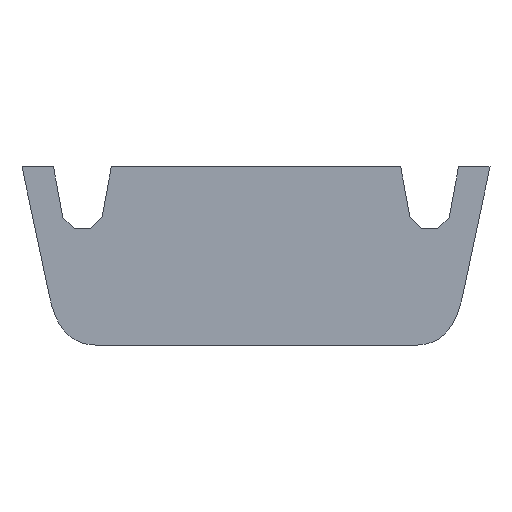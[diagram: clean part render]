
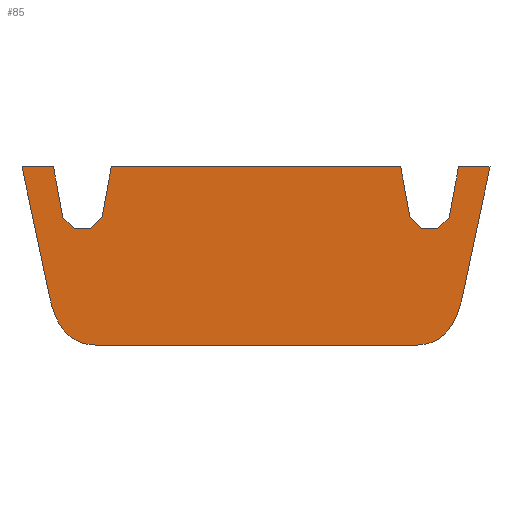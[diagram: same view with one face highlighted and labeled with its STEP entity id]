
A CAD part, front view. The second image highlights one B-rep face of the part: STEP entity #85.
In plain terms, the highlighted planar face has unit normal (0, -1, 0).
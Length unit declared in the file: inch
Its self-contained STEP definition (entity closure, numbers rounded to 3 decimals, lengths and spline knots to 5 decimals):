
#85=ADVANCED_FACE('',(#167),#168,.T.);
#167=FACE_OUTER_BOUND('',#247,.T.);
#168=PLANE('',#248);
#247=EDGE_LOOP('',(#425,#426,#427,#428,#429,#430,#431,#432,#433,#434,#435,#436,#437,#438,#439,#440,#441,#442));
#248=AXIS2_PLACEMENT_3D('',#443,#444,#445);
#425=ORIENTED_EDGE('',*,*,#480,.F.);
#426=ORIENTED_EDGE('',*,*,#470,.F.);
#427=ORIENTED_EDGE('',*,*,#544,.F.);
#428=ORIENTED_EDGE('',*,*,#484,.F.);
#429=ORIENTED_EDGE('',*,*,#542,.F.);
#430=ORIENTED_EDGE('',*,*,#530,.F.);
#431=ORIENTED_EDGE('',*,*,#539,.F.);
#432=ORIENTED_EDGE('',*,*,#545,.F.);
#433=ORIENTED_EDGE('',*,*,#493,.F.);
#434=ORIENTED_EDGE('',*,*,#546,.F.);
#435=ORIENTED_EDGE('',*,*,#536,.F.);
#436=ORIENTED_EDGE('',*,*,#475,.F.);
#437=ORIENTED_EDGE('',*,*,#528,.F.);
#438=ORIENTED_EDGE('',*,*,#520,.F.);
#439=ORIENTED_EDGE('',*,*,#503,.F.);
#440=ORIENTED_EDGE('',*,*,#526,.F.);
#441=ORIENTED_EDGE('',*,*,#498,.F.);
#442=ORIENTED_EDGE('',*,*,#523,.F.);
#443=CARTESIAN_POINT('',(0.65628,-1.25,-0.22));
#444=DIRECTION('',(0.0,-1.0,0.0));
#445=DIRECTION('',(1.0,0.0,0.0));
#470=EDGE_CURVE('',#555,#556,#557,.T.);
#475=EDGE_CURVE('',#564,#565,#566,.T.);
#480=EDGE_CURVE('',#556,#573,#574,.T.);
#484=EDGE_CURVE('',#579,#580,#581,.T.);
#493=EDGE_CURVE('',#594,#595,#596,.T.);
#498=EDGE_CURVE('',#603,#604,#605,.T.);
#503=EDGE_CURVE('',#612,#613,#614,.T.);
#520=EDGE_CURVE('',#613,#638,#639,.T.);
#523=EDGE_CURVE('',#573,#603,#642,.T.);
#526=EDGE_CURVE('',#604,#612,#645,.T.);
#528=EDGE_CURVE('',#638,#564,#647,.T.);
#530=EDGE_CURVE('',#649,#650,#651,.T.);
#536=EDGE_CURVE('',#565,#657,#658,.T.);
#539=EDGE_CURVE('',#661,#649,#662,.T.);
#542=EDGE_CURVE('',#650,#579,#665,.T.);
#544=EDGE_CURVE('',#580,#555,#667,.T.);
#545=EDGE_CURVE('',#595,#661,#668,.T.);
#546=EDGE_CURVE('',#657,#594,#669,.T.);
#555=VERTEX_POINT('',#678);
#556=VERTEX_POINT('',#679);
#557=LINE('',#680,#681);
#564=VERTEX_POINT('',#691);
#565=VERTEX_POINT('',#692);
#566=LINE('',#693,#694);
#573=VERTEX_POINT('',#704);
#574=B_SPLINE_CURVE_WITH_KNOTS('',2,(#705,#706,#707),.UNSPECIFIED.,.F.,.F.,(3,3),(0.0,1.0),.UNSPECIFIED.);
#579=VERTEX_POINT('',#715);
#580=VERTEX_POINT('',#716);
#581=LINE('',#717,#718);
#594=VERTEX_POINT('',#736);
#595=VERTEX_POINT('',#737);
#596=LINE('',#738,#739);
#603=VERTEX_POINT('',#749);
#604=VERTEX_POINT('',#750);
#605=LINE('',#751,#752);
#612=VERTEX_POINT('',#762);
#613=VERTEX_POINT('',#763);
#614=LINE('',#764,#765);
#638=VERTEX_POINT('',#804);
#639=LINE('',#805,#806);
#642=LINE('',#810,#811);
#645=LINE('',#814,#815);
#647=LINE('',#817,#818);
#649=VERTEX_POINT('',#820);
#650=VERTEX_POINT('',#821);
#651=LINE('',#822,#823);
#657=VERTEX_POINT('',#831);
#658=LINE('',#832,#833);
#661=VERTEX_POINT('',#837);
#662=LINE('',#838,#839);
#665=LINE('',#843,#844);
#667=B_SPLINE_CURVE_WITH_KNOTS('',2,(#846,#847,#848),.UNSPECIFIED.,.F.,.F.,(3,3),(0.0,1.0),.UNSPECIFIED.);
#668=LINE('',#849,#850);
#669=LINE('',#851,#852);
#678=CARTESIAN_POINT('',(1.10335,-1.25,-0.50005));
#679=CARTESIAN_POINT('',(0.2092,-1.25,-0.50005));
#680=CARTESIAN_POINT('',(0.65595,-1.25,-0.50005));
#681=VECTOR('',#862,1.0);
#691=CARTESIAN_POINT('',(0.22418,-1.25,-0.14224));
#692=CARTESIAN_POINT('',(0.25058,-1.25,0.0));
#693=CARTESIAN_POINT('',(0.22418,-1.25,-0.14224));
#694=VECTOR('',#866,1.0);
#704=CARTESIAN_POINT('',(0.07726,-1.25,-0.36404));
#705=CARTESIAN_POINT('',(0.2092,-1.25,-0.50005));
#706=CARTESIAN_POINT('',(0.10503,-1.25,-0.50005));
#707=CARTESIAN_POINT('',(0.07726,-1.25,-0.36404));
#715=CARTESIAN_POINT('',(1.31255,-1.25,0.0));
#716=CARTESIAN_POINT('',(1.23529,-1.25,-0.36404));
#717=CARTESIAN_POINT('',(1.31255,-1.25,0.0));
#718=VECTOR('',#871,1.0);
#736=CARTESIAN_POINT('',(1.08837,-1.25,-0.14224));
#737=CARTESIAN_POINT('',(1.12008,-1.25,-0.17394));
#738=CARTESIAN_POINT('',(1.08837,-1.25,-0.14224));
#739=VECTOR('',#880,1.0);
#749=CARTESIAN_POINT('',(0.,-1.25,0.0));
#750=CARTESIAN_POINT('',(0.08824,-1.25,0.0));
#751=CARTESIAN_POINT('',(0.,-1.25,0.0));
#752=VECTOR('',#884,1.0);
#762=CARTESIAN_POINT('',(0.11465,-1.25,-0.14224));
#763=CARTESIAN_POINT('',(0.14635,-1.25,-0.17394));
#764=CARTESIAN_POINT('',(0.11465,-1.25,-0.14224));
#765=VECTOR('',#888,1.0);
#804=CARTESIAN_POINT('',(0.19248,-1.25,-0.17394));
#805=CARTESIAN_POINT('',(0.14635,-1.25,-0.17394));
#806=VECTOR('',#902,1.0);
#810=CARTESIAN_POINT('',(0.07726,-1.25,-0.36404));
#811=VECTOR('',#904,1.0);
#814=CARTESIAN_POINT('',(0.08824,-1.25,0.0));
#815=VECTOR('',#905,1.0);
#817=CARTESIAN_POINT('',(0.19248,-1.25,-0.17394));
#818=VECTOR('',#906,1.0);
#820=CARTESIAN_POINT('',(1.19791,-1.25,-0.14224));
#821=CARTESIAN_POINT('',(1.22431,-1.25,0.0));
#822=CARTESIAN_POINT('',(1.19791,-1.25,-0.14224));
#823=VECTOR('',#907,1.0);
#831=CARTESIAN_POINT('',(1.06198,-1.25,0.0));
#832=CARTESIAN_POINT('',(0.25058,-1.25,0.0));
#833=VECTOR('',#913,1.0);
#837=CARTESIAN_POINT('',(1.1662,-1.25,-0.17394));
#838=CARTESIAN_POINT('',(1.1662,-1.25,-0.17394));
#839=VECTOR('',#915,1.0);
#843=CARTESIAN_POINT('',(1.22431,-1.25,0.0));
#844=VECTOR('',#917,1.0);
#846=CARTESIAN_POINT('',(1.23529,-1.25,-0.36404));
#847=CARTESIAN_POINT('',(1.20751,-1.25,-0.50005));
#848=CARTESIAN_POINT('',(1.10335,-1.25,-0.50005));
#849=CARTESIAN_POINT('',(1.12008,-1.25,-0.17394));
#850=VECTOR('',#918,1.0);
#851=CARTESIAN_POINT('',(1.06198,-1.25,0.0));
#852=VECTOR('',#919,1.0);
#862=DIRECTION('',(-1.0,0.0,0.0));
#866=DIRECTION('',(0.183,0.0,0.983));
#871=DIRECTION('',(-0.208,-0.0,-0.978));
#880=DIRECTION('',(0.707,0.0,-0.707));
#884=DIRECTION('',(1.0,0.0,0.0));
#888=DIRECTION('',(0.707,0.0,-0.707));
#902=DIRECTION('',(1.0,0.0,0.0));
#904=DIRECTION('',(-0.208,0.0,0.978));
#905=DIRECTION('',(0.183,0.0,-0.983));
#906=DIRECTION('',(0.707,0.0,0.707));
#907=DIRECTION('',(0.182,0.0,0.983));
#913=DIRECTION('',(1.0,0.0,0.0));
#915=DIRECTION('',(0.707,0.0,0.707));
#917=DIRECTION('',(1.0,0.0,0.0));
#918=DIRECTION('',(1.0,0.0,0.0));
#919=DIRECTION('',(0.182,0.0,-0.983));
